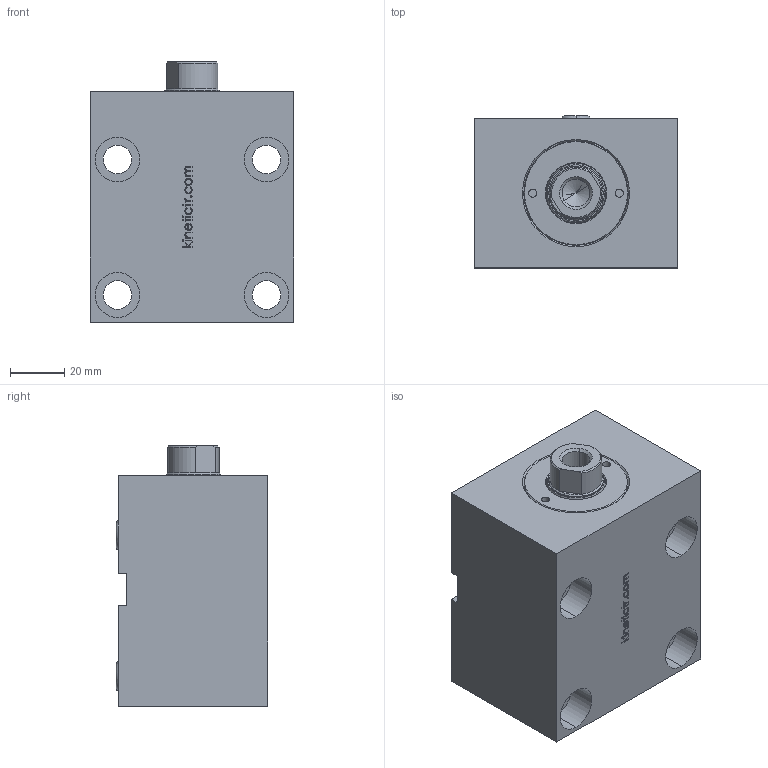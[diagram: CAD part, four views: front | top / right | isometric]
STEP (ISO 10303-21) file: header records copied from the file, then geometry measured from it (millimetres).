
FILE_DESCRIPTION (( 'STEP AP214' ), '1' );
FILE_NAME ('KBZ_11_32_20_35_W.STEP', '2019-09-15T14:59:07', ( '' ), ( '' ), 'SwSTEP 2.0', 'SolidWorks 2018', '' );
FILE_SCHEMA (( 'AUTOMOTIVE_DESIGN' ));
Length unit declared in the file: millimetre
Products named in the file (6): KBZ_11_20_MIL_W; kbz_11_32_20_govde_W; KBZ_11_32_20_35_W; KO-6X2_5; K06-20X25X4_3X6; KBZ_11_32_ON_kapak_W
Assembly tree (6 placements, depth 2):
  KBZ_11_32_20_35_W
    kbz_11_32_20_govde_W
    KBZ_11_20_MIL_W
    KBZ_11_32_ON_kapak_W
    K06-20X25X4_3X6
    KO-6X2_5  x2
Bounding box: 75 x 56 x 96 mm (x, y, z)
Volume: 316954.8 mm3; surface area: 53215.8 mm2
Topology: 6 solids, 6 shells, 325 faces, 785 edges, 504 vertices
Faces by surface type: plane 137, bspline 77, cylinder 62, cone 49
Entity records: 12988 total; most frequent: CARTESIAN_POINT 5553, ORIENTED_EDGE 1550, DIRECTION 1308, EDGE_CURVE 775, VERTEX_POINT 500, VECTOR 438, LINE 438, AXIS2_PLACEMENT_3D 435
